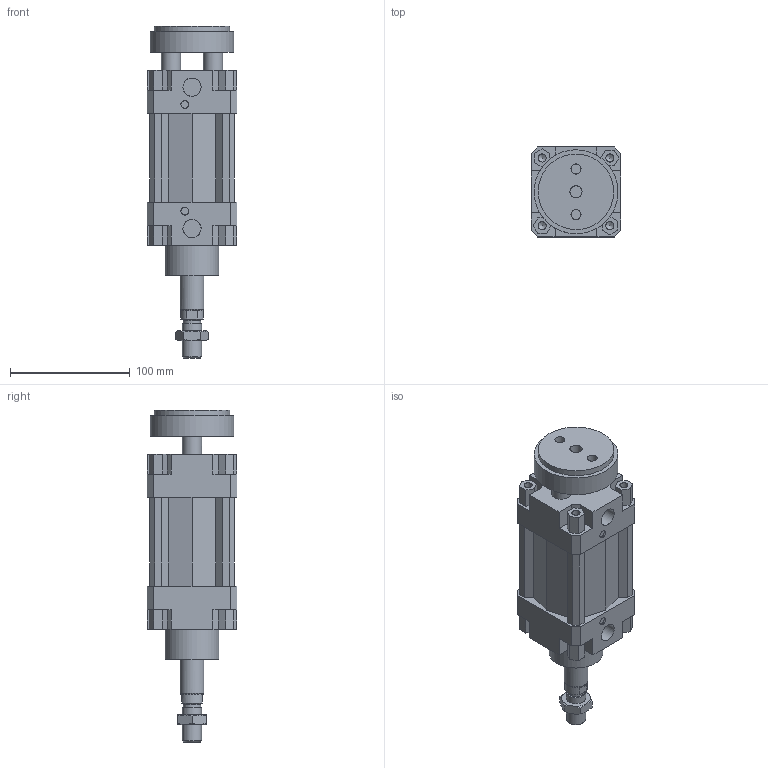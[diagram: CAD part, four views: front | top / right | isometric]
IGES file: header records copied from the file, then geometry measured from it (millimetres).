
Global section: file name: 132#_063_0025_02; native system: Autodesk Inventor 2014; preprocessor: unknown; author: A. Manieri; date: 20161006.155831; units: millimetre
Bounding box: 75 x 75 x 277 mm (x, y, z)
Volume: 759658.5 mm3; surface area: 143231.6 mm2
Topology: 3 solids, 3 shells, 220 faces, 589 edges, 397 vertices
Faces by surface type: bspline 220
